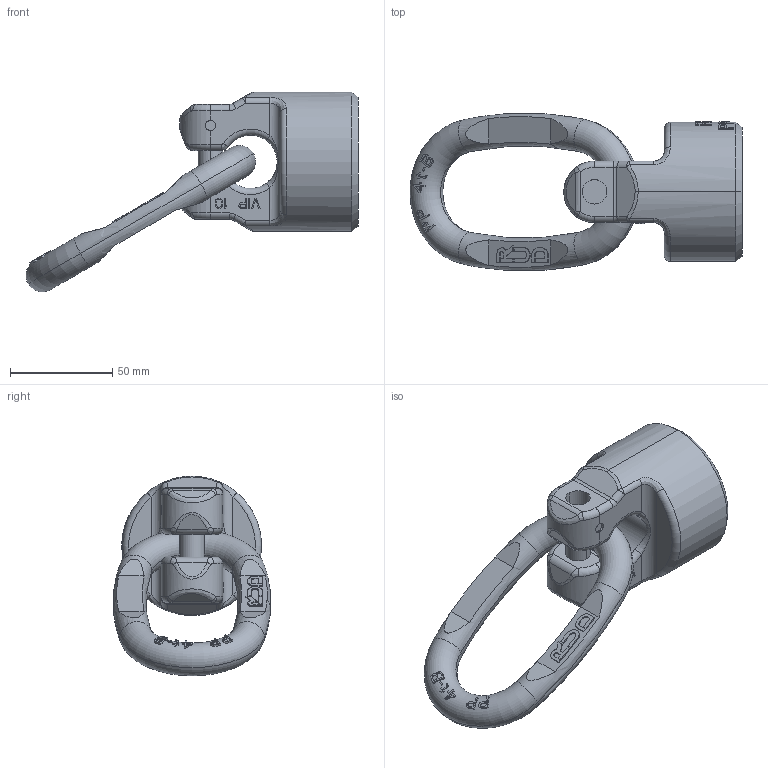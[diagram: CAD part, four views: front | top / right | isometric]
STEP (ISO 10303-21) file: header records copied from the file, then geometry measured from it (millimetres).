
FILE_DESCRIPTION((''),'2;1');
FILE_NAME('001-M31341-P-50_ASM','2018-04-26T',('Anja.Joas'),(''),'PRO/ENGINEER BY PARAMETRIC TECHNOLOGY CORPORATION, 2011490','PRO/ENGINEER BY PARAMETRIC TECHNOLOGY CORPORATION, 2011490','');
FILE_SCHEMA(('CONFIG_CONTROL_DESIGN'));
Length unit declared in the file: millimetre
Products named in the file (3): 001-M31341-P-20_AF0; 001-M31290-003; 001-M31341-P-50_ASM
Assembly tree (2 placements, depth 2):
  001-M31341-P-50_ASM
    001-M31341-P-20_AF0
    001-M31290-003
Bounding box: 162.13 x 76.57 x 97.5 mm (x, y, z)
Volume: 248451.2 mm3; surface area: 38355.3 mm2
Topology: 2 solids, 2 shells, 575 faces, 1525 edges, 990 vertices
Faces by surface type: plane 450, cylinder 61, torus 31, bspline 26, sphere 4, cone 2, extrusion 1
Entity records: 19774 total; most frequent: CARTESIAN_POINT 6005, ORIENTED_EDGE 3050, DIRECTION 2522, EDGE_CURVE 1525, VERTEX_POINT 990, VECTOR 922, LINE 921, AXIS2_PLACEMENT_3D 800
